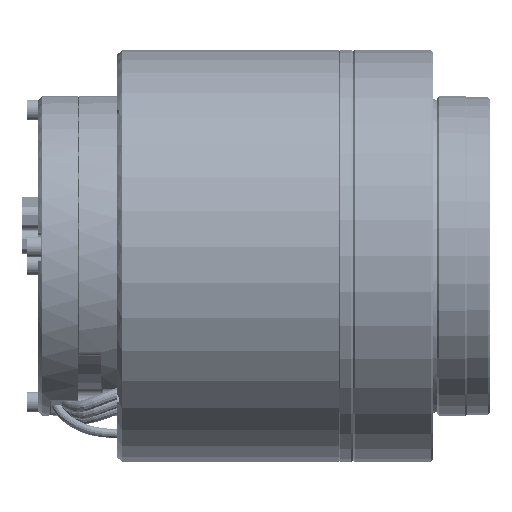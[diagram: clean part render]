
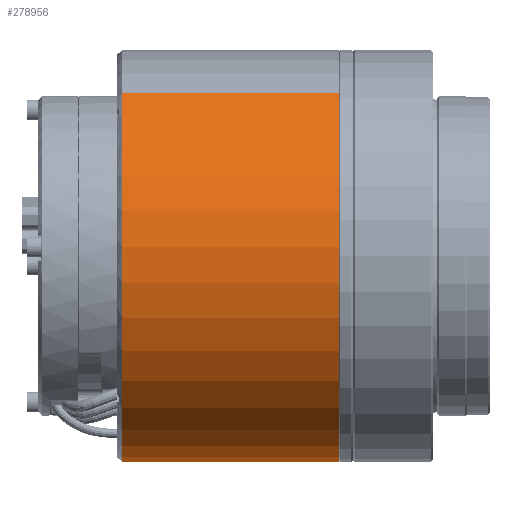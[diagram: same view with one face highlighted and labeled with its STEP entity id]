
A CAD part, front view. The second image highlights one B-rep face of the part: STEP entity #278956.
In plain terms, the highlighted cylindrical face has radius 45 mm (diameter 90 mm), a partial arc.
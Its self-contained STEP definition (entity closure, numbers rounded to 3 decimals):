
#12694 = VECTOR ( 'NONE', #343490, 1000. ) ;
#14516 = CYLINDRICAL_SURFACE ( 'NONE', #160595, 45. ) ;
#21218 = VECTOR ( 'NONE', #363440, 1000. ) ;
#32433 = CARTESIAN_POINT ( 'NONE',  ( -20.5, 27.394, -35.701 ) ) ;
#47023 = CARTESIAN_POINT ( 'NONE',  ( -68., -27.394, 35.701 ) ) ;
#50652 = VERTEX_POINT ( 'NONE', #310579 ) ;
#75463 = FACE_OUTER_BOUND ( 'NONE', #355357, .T. ) ;
#88953 = CARTESIAN_POINT ( 'NONE',  ( -20.5, 0., 0. ) ) ;
#96037 = ORIENTED_EDGE ( 'NONE', *, *, #334866, .T. ) ;
#107466 = CIRCLE ( 'NONE', #207993, 45. ) ;
#127450 = CARTESIAN_POINT ( 'NONE',  ( -20.5, 0., 0. ) ) ;
#130189 = EDGE_CURVE ( 'NONE', #50652, #178759, #184667, .T. ) ;
#152109 = CARTESIAN_POINT ( 'NONE',  ( -20.5, 27.394, -35.701 ) ) ;
#160595 = AXIS2_PLACEMENT_3D ( 'NONE', #127450, #214430, #240406 ) ;
#175881 = EDGE_CURVE ( 'NONE', #50652, #202520, #276428, .T. ) ;
#178759 = VERTEX_POINT ( 'NONE', #152109 ) ;
#184667 = CIRCLE ( 'NONE', #267424, 45. ) ;
#188567 = CARTESIAN_POINT ( 'NONE',  ( -68., 27.394, -35.701 ) ) ;
#202520 = VERTEX_POINT ( 'NONE', #47023 ) ;
#207993 = AXIS2_PLACEMENT_3D ( 'NONE', #229568, #342538, #286986 ) ;
#214430 = DIRECTION ( 'NONE',  ( -1., 0., 0. ) ) ;
#226885 = LINE ( 'NONE', #32433, #12694 ) ;
#229568 = CARTESIAN_POINT ( 'NONE',  ( -68., 0., 0. ) ) ;
#240406 = DIRECTION ( 'NONE',  ( 0., 0.609, -0.793 ) ) ;
#243038 = EDGE_CURVE ( 'NONE', #178759, #287356, #226885, .T. ) ;
#267424 = AXIS2_PLACEMENT_3D ( 'NONE', #88953, #281604, #277896 ) ;
#276428 = LINE ( 'NONE', #328378, #21218 ) ;
#277896 = DIRECTION ( 'NONE',  ( 0., -0.609, 0.793 ) ) ;
#278956 = ADVANCED_FACE ( 'NONE', ( #75463 ), #14516, .T. ) ;
#281604 = DIRECTION ( 'NONE',  ( 1., 0., 0. ) ) ;
#286986 = DIRECTION ( 'NONE',  ( 0., 0.609, -0.793 ) ) ;
#287356 = VERTEX_POINT ( 'NONE', #188567 ) ;
#287655 = ORIENTED_EDGE ( 'NONE', *, *, #130189, .F. ) ;
#307134 = ORIENTED_EDGE ( 'NONE', *, *, #243038, .F. ) ;
#310579 = CARTESIAN_POINT ( 'NONE',  ( -20.5, -27.394, 35.701 ) ) ;
#328378 = CARTESIAN_POINT ( 'NONE',  ( -20.5, -27.394, 35.701 ) ) ;
#334866 = EDGE_CURVE ( 'NONE', #202520, #287356, #107466, .T. ) ;
#337207 = ORIENTED_EDGE ( 'NONE', *, *, #175881, .T. ) ;
#342538 = DIRECTION ( 'NONE',  ( 1., 0., 0. ) ) ;
#343490 = DIRECTION ( 'NONE',  ( -1., 0., 0. ) ) ;
#355357 = EDGE_LOOP ( 'NONE', ( #287655, #337207, #96037, #307134 ) ) ;
#363440 = DIRECTION ( 'NONE',  ( -1., 0., 0. ) ) ;
